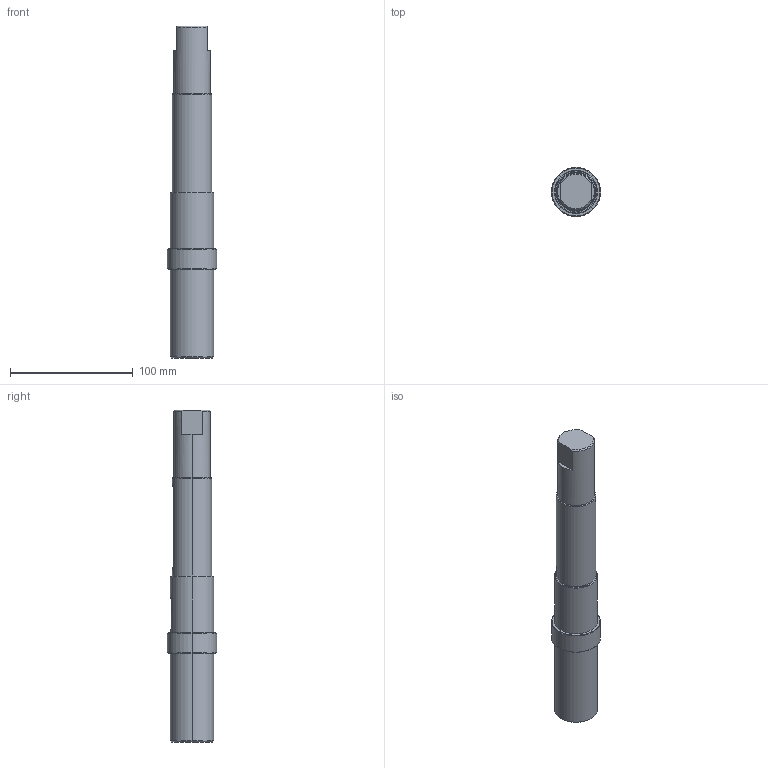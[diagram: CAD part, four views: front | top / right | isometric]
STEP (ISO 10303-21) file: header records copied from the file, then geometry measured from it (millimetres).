
FILE_DESCRIPTION (( 'STEP AP203' ), '1' );
FILE_NAME ('YWSD-2026-03-01-05=004 打磨从动轴.STEP', '2026-07-24T07:40:25', ( 'Windows 用户' ), ( '' ), 'SwSTEP 2.0', 'SolidWorks 2024', '' );
FILE_SCHEMA (( 'CONFIG_CONTROL_DESIGN' ));
Length unit declared in the file: millimetre
Products named in the file (1): YWSD-2026-03-01-05=004 打磨从动轴
Bounding box: 40 x 40 x 270 mm (x, y, z)
Volume: 232388.9 mm3; surface area: 31503.9 mm2
Topology: 1 solids, 1 shells, 44 faces, 98 edges, 62 vertices
Faces by surface type: cylinder 16, plane 16, cone 12
Entity records: 1435 total; most frequent: CARTESIAN_POINT 359, DIRECTION 220, ORIENTED_EDGE 196, EDGE_CURVE 98, AXIS2_PLACEMENT_3D 87, VERTEX_POINT 62, EDGE_LOOP 50, LINE 46
